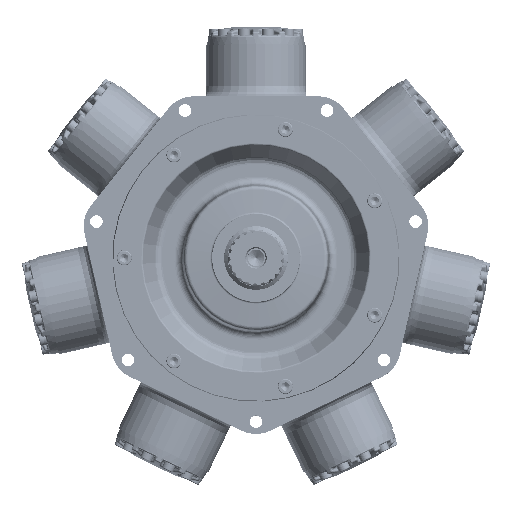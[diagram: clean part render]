
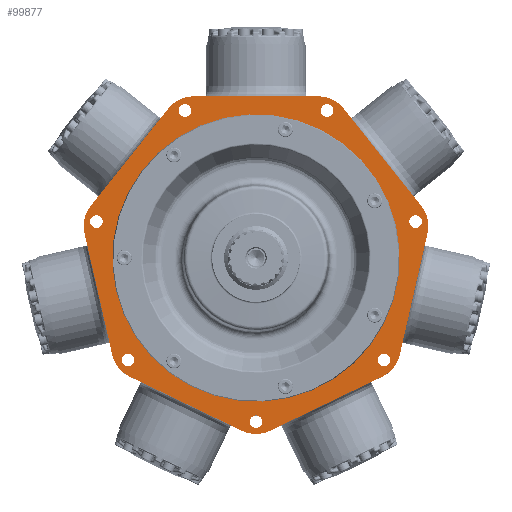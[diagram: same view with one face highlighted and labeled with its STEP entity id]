
A CAD part, top view. The second image highlights one B-rep face of the part: STEP entity #99877.
In plain terms, the highlighted planar face has unit normal (0, 0, 1).
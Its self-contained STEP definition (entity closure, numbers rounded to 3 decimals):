
#9384=FACE_BOUND('',#19102,.T.);
#9385=FACE_BOUND('',#19103,.T.);
#9386=FACE_BOUND('',#19104,.T.);
#9387=FACE_BOUND('',#19105,.T.);
#9388=FACE_BOUND('',#19106,.T.);
#9389=FACE_BOUND('',#19107,.T.);
#9390=FACE_BOUND('',#19108,.T.);
#9391=FACE_BOUND('',#19109,.T.);
#9731=PLANE('',#106223);
#12789=FACE_OUTER_BOUND('',#19101,.T.);
#19101=EDGE_LOOP('',(#63376,#63377,#63378,#63379,#63380,#63381,#63382,#63383,
#63384,#63385,#63386,#63387,#63388,#63389));
#19102=EDGE_LOOP('',(#63390));
#19103=EDGE_LOOP('',(#63391));
#19104=EDGE_LOOP('',(#63392));
#19105=EDGE_LOOP('',(#63393));
#19106=EDGE_LOOP('',(#63394));
#19107=EDGE_LOOP('',(#63395));
#19108=EDGE_LOOP('',(#63396));
#19109=EDGE_LOOP('',(#63397));
#25741=LINE('',#136582,#30490);
#25742=LINE('',#136586,#30491);
#25743=LINE('',#136590,#30492);
#25744=LINE('',#136594,#30493);
#25745=LINE('',#136598,#30494);
#25746=LINE('',#136602,#30495);
#25747=LINE('',#136606,#30496);
#30490=VECTOR('',#114737,10.);
#30491=VECTOR('',#114740,10.);
#30492=VECTOR('',#114743,10.);
#30493=VECTOR('',#114746,10.);
#30494=VECTOR('',#114749,10.);
#30495=VECTOR('',#114752,10.);
#30496=VECTOR('',#114755,10.);
#35239=CIRCLE('',#106224,50.8);
#35240=CIRCLE('',#106225,50.8);
#35241=CIRCLE('',#106226,50.8);
#35242=CIRCLE('',#106227,50.8);
#35243=CIRCLE('',#106228,50.8);
#35244=CIRCLE('',#106229,50.8);
#35245=CIRCLE('',#106230,50.8);
#35246=CIRCLE('',#106231,10.);
#35247=CIRCLE('',#106232,10.);
#35248=CIRCLE('',#106233,10.);
#35249=CIRCLE('',#106234,10.);
#35250=CIRCLE('',#106235,10.);
#35251=CIRCLE('',#106236,10.);
#35252=CIRCLE('',#106237,10.);
#35253=CIRCLE('',#106238,228.555);
#39246=VERTEX_POINT('',#136580);
#39247=VERTEX_POINT('',#136581);
#39248=VERTEX_POINT('',#136583);
#39249=VERTEX_POINT('',#136585);
#39250=VERTEX_POINT('',#136587);
#39251=VERTEX_POINT('',#136589);
#39252=VERTEX_POINT('',#136591);
#39253=VERTEX_POINT('',#136593);
#39254=VERTEX_POINT('',#136595);
#39255=VERTEX_POINT('',#136597);
#39256=VERTEX_POINT('',#136599);
#39257=VERTEX_POINT('',#136601);
#39258=VERTEX_POINT('',#136603);
#39259=VERTEX_POINT('',#136605);
#39260=VERTEX_POINT('',#136608);
#39261=VERTEX_POINT('',#136610);
#39262=VERTEX_POINT('',#136612);
#39263=VERTEX_POINT('',#136614);
#39264=VERTEX_POINT('',#136616);
#39265=VERTEX_POINT('',#136618);
#39266=VERTEX_POINT('',#136620);
#39267=VERTEX_POINT('',#136622);
#48318=EDGE_CURVE('',#39246,#39247,#25741,.T.);
#48319=EDGE_CURVE('',#39248,#39246,#35239,.T.);
#48320=EDGE_CURVE('',#39249,#39248,#25742,.T.);
#48321=EDGE_CURVE('',#39250,#39249,#35240,.T.);
#48322=EDGE_CURVE('',#39251,#39250,#25743,.T.);
#48323=EDGE_CURVE('',#39252,#39251,#35241,.T.);
#48324=EDGE_CURVE('',#39253,#39252,#25744,.T.);
#48325=EDGE_CURVE('',#39254,#39253,#35242,.T.);
#48326=EDGE_CURVE('',#39255,#39254,#25745,.T.);
#48327=EDGE_CURVE('',#39256,#39255,#35243,.T.);
#48328=EDGE_CURVE('',#39257,#39256,#25746,.T.);
#48329=EDGE_CURVE('',#39258,#39257,#35244,.T.);
#48330=EDGE_CURVE('',#39259,#39258,#25747,.T.);
#48331=EDGE_CURVE('',#39247,#39259,#35245,.T.);
#48332=EDGE_CURVE('',#39260,#39260,#35246,.T.);
#48333=EDGE_CURVE('',#39261,#39261,#35247,.T.);
#48334=EDGE_CURVE('',#39262,#39262,#35248,.T.);
#48335=EDGE_CURVE('',#39263,#39263,#35249,.T.);
#48336=EDGE_CURVE('',#39264,#39264,#35250,.T.);
#48337=EDGE_CURVE('',#39265,#39265,#35251,.T.);
#48338=EDGE_CURVE('',#39266,#39266,#35252,.T.);
#48339=EDGE_CURVE('',#39267,#39267,#35253,.T.);
#63376=ORIENTED_EDGE('',*,*,#48318,.F.);
#63377=ORIENTED_EDGE('',*,*,#48319,.F.);
#63378=ORIENTED_EDGE('',*,*,#48320,.F.);
#63379=ORIENTED_EDGE('',*,*,#48321,.F.);
#63380=ORIENTED_EDGE('',*,*,#48322,.F.);
#63381=ORIENTED_EDGE('',*,*,#48323,.F.);
#63382=ORIENTED_EDGE('',*,*,#48324,.F.);
#63383=ORIENTED_EDGE('',*,*,#48325,.F.);
#63384=ORIENTED_EDGE('',*,*,#48326,.F.);
#63385=ORIENTED_EDGE('',*,*,#48327,.F.);
#63386=ORIENTED_EDGE('',*,*,#48328,.F.);
#63387=ORIENTED_EDGE('',*,*,#48329,.F.);
#63388=ORIENTED_EDGE('',*,*,#48330,.F.);
#63389=ORIENTED_EDGE('',*,*,#48331,.F.);
#63390=ORIENTED_EDGE('',*,*,#48332,.T.);
#63391=ORIENTED_EDGE('',*,*,#48333,.T.);
#63392=ORIENTED_EDGE('',*,*,#48334,.T.);
#63393=ORIENTED_EDGE('',*,*,#48335,.T.);
#63394=ORIENTED_EDGE('',*,*,#48336,.T.);
#63395=ORIENTED_EDGE('',*,*,#48337,.T.);
#63396=ORIENTED_EDGE('',*,*,#48338,.T.);
#63397=ORIENTED_EDGE('',*,*,#48339,.F.);
#99877=ADVANCED_FACE('',(#12789,#9384,#9385,#9386,#9387,#9388,#9389,#9390,
#9391),#9731,.F.);
#106223=AXIS2_PLACEMENT_3D('',#136579,#114735,#114736);
#106224=AXIS2_PLACEMENT_3D('',#136584,#114738,#114739);
#106225=AXIS2_PLACEMENT_3D('',#136588,#114741,#114742);
#106226=AXIS2_PLACEMENT_3D('',#136592,#114744,#114745);
#106227=AXIS2_PLACEMENT_3D('',#136596,#114747,#114748);
#106228=AXIS2_PLACEMENT_3D('',#136600,#114750,#114751);
#106229=AXIS2_PLACEMENT_3D('',#136604,#114753,#114754);
#106230=AXIS2_PLACEMENT_3D('',#136607,#114756,#114757);
#106231=AXIS2_PLACEMENT_3D('',#136609,#114758,#114759);
#106232=AXIS2_PLACEMENT_3D('',#136611,#114760,#114761);
#106233=AXIS2_PLACEMENT_3D('',#136613,#114762,#114763);
#106234=AXIS2_PLACEMENT_3D('',#136615,#114764,#114765);
#106235=AXIS2_PLACEMENT_3D('',#136617,#114766,#114767);
#106236=AXIS2_PLACEMENT_3D('',#136619,#114768,#114769);
#106237=AXIS2_PLACEMENT_3D('',#136621,#114770,#114771);
#106238=AXIS2_PLACEMENT_3D('',#136623,#114772,#114773);
#114735=DIRECTION('center_axis',(0.,0.,-1.));
#114736=DIRECTION('ref_axis',(-1.,0.,0.));
#114737=DIRECTION('',(0.623,0.782,0.));
#114738=DIRECTION('center_axis',(0.,0.,-1.));
#114739=DIRECTION('ref_axis',(-0.975,-0.223,0.));
#114740=DIRECTION('',(-0.223,0.975,0.));
#114741=DIRECTION('center_axis',(0.,0.,-1.));
#114742=DIRECTION('ref_axis',(-0.434,-0.901,0.));
#114743=DIRECTION('',(-0.901,0.434,0.));
#114744=DIRECTION('center_axis',(0.,0.,-1.));
#114745=DIRECTION('ref_axis',(0.434,-0.901,0.));
#114746=DIRECTION('',(-0.901,-0.434,0.));
#114747=DIRECTION('center_axis',(0.,0.,-1.));
#114748=DIRECTION('ref_axis',(0.975,-0.223,0.));
#114749=DIRECTION('',(-0.223,-0.975,0.));
#114750=DIRECTION('center_axis',(0.,0.,-1.));
#114751=DIRECTION('ref_axis',(0.782,0.623,0.));
#114752=DIRECTION('',(0.623,-0.782,0.));
#114753=DIRECTION('center_axis',(0.,0.,-1.));
#114754=DIRECTION('ref_axis',(0.,1.,0.));
#114755=DIRECTION('',(1.,0.,0.));
#114756=DIRECTION('center_axis',(0.,0.,-1.));
#114757=DIRECTION('ref_axis',(-0.782,0.623,0.));
#114758=DIRECTION('center_axis',(0.,0.,-1.));
#114759=DIRECTION('ref_axis',(1.,0.,0.));
#114760=DIRECTION('center_axis',(0.,0.,-1.));
#114761=DIRECTION('ref_axis',(1.,0.,0.));
#114762=DIRECTION('center_axis',(0.,0.,-1.));
#114763=DIRECTION('ref_axis',(1.,0.,0.));
#114764=DIRECTION('center_axis',(0.,0.,-1.));
#114765=DIRECTION('ref_axis',(1.,0.,0.));
#114766=DIRECTION('center_axis',(0.,0.,-1.));
#114767=DIRECTION('ref_axis',(1.,0.,0.));
#114768=DIRECTION('center_axis',(0.,0.,-1.));
#114769=DIRECTION('ref_axis',(1.,0.,0.));
#114770=DIRECTION('center_axis',(0.,0.,-1.));
#114771=DIRECTION('ref_axis',(1.,0.,0.));
#114772=DIRECTION('center_axis',(0.,0.,
1.));
#114773=DIRECTION('ref_axis',(0.223,-0.975,0.));
#136579=CARTESIAN_POINT('Origin',(0.,439.494,-6.59));
#136580=CARTESIAN_POINT('',(-263.033,82.644,-6.59));
#136581=CARTESIAN_POINT('',(-139.102,238.048,-6.59));
#136582=CARTESIAN_POINT('',(-62.966,333.52,-6.59));
#136583=CARTESIAN_POINT('',(-272.842,39.666,-6.59));
#136584=CARTESIAN_POINT('Origin',(-223.316,50.97,-6.59));
#136585=CARTESIAN_POINT('',(-228.612,-154.12,-6.59));
#136586=CARTESIAN_POINT('',(-309.457,200.086,-6.59));
#136587=CARTESIAN_POINT('',(-201.127,-188.585,-6.59));
#136588=CARTESIAN_POINT('Origin',(-179.086,-142.816,-6.59));
#136589=CARTESIAN_POINT('',(-22.041,-274.828,-6.59));
#136590=CARTESIAN_POINT('',(-242.258,-168.777,-6.59));
#136591=CARTESIAN_POINT('',(22.041,-274.828,-6.59));
#136592=CARTESIAN_POINT('Origin',(0.,-229.059,
-6.59));
#136593=CARTESIAN_POINT('',(201.127,-188.585,-6.59));
#136594=CARTESIAN_POINT('',(152.715,-211.899,-6.59));
#136595=CARTESIAN_POINT('',(228.612,-154.12,-6.59));
#136596=CARTESIAN_POINT('Origin',(179.086,-142.816,-6.59));
#136597=CARTESIAN_POINT('',(272.842,39.666,-6.59));
#136598=CARTESIAN_POINT('',(287.342,103.193,-6.59));
#136599=CARTESIAN_POINT('',(263.033,82.644,-6.59));
#136600=CARTESIAN_POINT('Origin',(223.316,50.97,-6.59));
#136601=CARTESIAN_POINT('',(139.102,238.048,-6.59));
#136602=CARTESIAN_POINT('',(124.931,255.818,-6.59));
#136603=CARTESIAN_POINT('',(99.385,257.175,-6.59));
#136604=CARTESIAN_POINT('Origin',(99.385,206.375,-6.59));
#136605=CARTESIAN_POINT('',(-99.385,257.175,-6.59));
#136606=CARTESIAN_POINT('',(49.692,257.175,-6.59));
#136607=CARTESIAN_POINT('Origin',(-99.385,206.375,-6.59));
#136608=CARTESIAN_POINT('',(-10.,-260.35,-6.59));
#136609=CARTESIAN_POINT('Origin',(0.,-260.35,-6.59));
#136610=CARTESIAN_POINT('',(243.822,57.933,-6.59));
#136611=CARTESIAN_POINT('Origin',(253.822,57.933,-6.59));
#136612=CARTESIAN_POINT('',(-263.822,57.933,-6.59));
#136613=CARTESIAN_POINT('Origin',(-253.822,57.933,-6.59));
#136614=CARTESIAN_POINT('',(193.55,-162.326,-6.59));
#136615=CARTESIAN_POINT('Origin',(203.55,-162.326,-6.59));
#136616=CARTESIAN_POINT('',(102.962,234.567,-6.59));
#136617=CARTESIAN_POINT('Origin',(112.962,234.567,-6.59));
#136618=CARTESIAN_POINT('',(-122.962,234.567,-6.59));
#136619=CARTESIAN_POINT('Origin',(-112.962,234.567,-6.59));
#136620=CARTESIAN_POINT('',(-213.55,-162.326,-6.59));
#136621=CARTESIAN_POINT('Origin',(-203.55,-162.326,-6.59));
#136622=CARTESIAN_POINT('',(222.825,50.858,-6.59));
#136623=CARTESIAN_POINT('Origin',(0.,0.,
-6.59));
